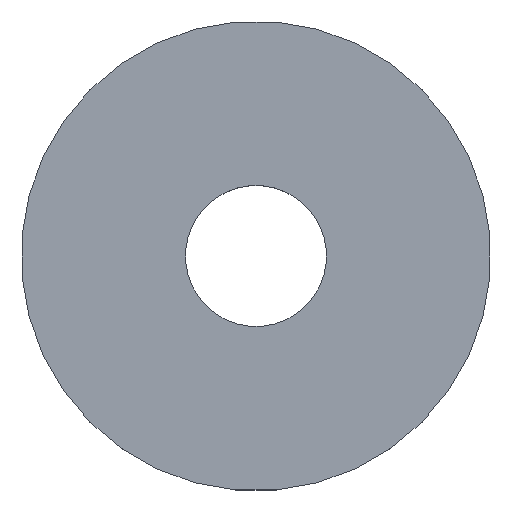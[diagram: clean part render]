
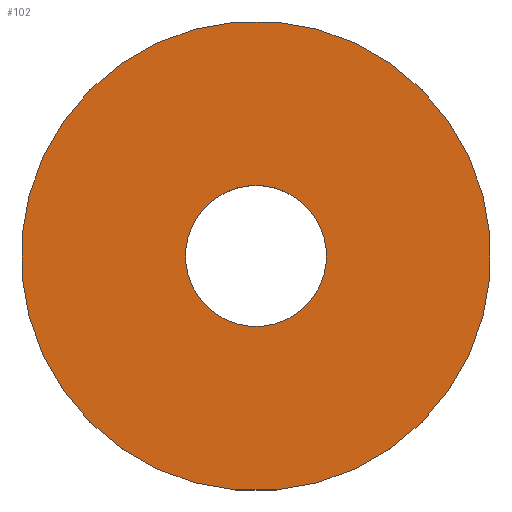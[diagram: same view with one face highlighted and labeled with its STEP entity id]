
A CAD part, top view. The second image highlights one B-rep face of the part: STEP entity #102.
In plain terms, the highlighted planar face has unit normal (0, 0, 1).
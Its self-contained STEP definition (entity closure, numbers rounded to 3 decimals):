
#16=FACE_BOUND('',#31,.T.);
#19=PLANE('',#126);
#23=FACE_OUTER_BOUND('',#30,.T.);
#30=EDGE_LOOP('',(#79));
#31=EDGE_LOOP('',(#80));
#46=CIRCLE('',#124,5.);
#48=CIRCLE('',#127,1.5);
#56=VERTEX_POINT('',#180);
#57=VERTEX_POINT('',#185);
#64=EDGE_CURVE('',#56,#56,#46,.T.);
#66=EDGE_CURVE('',#57,#57,#48,.T.);
#79=ORIENTED_EDGE('',*,*,#64,.F.);
#80=ORIENTED_EDGE('',*,*,#66,.F.);
#102=ADVANCED_FACE('',(#23,#16),#19,.T.);
#124=AXIS2_PLACEMENT_3D('',#182,#145,#146);
#126=AXIS2_PLACEMENT_3D('',#184,#149,#150);
#127=AXIS2_PLACEMENT_3D('',#186,#151,#152);
#145=DIRECTION('center_axis',(0.,0.,
-1.));
#146=DIRECTION('ref_axis',(0.087,0.996,0.));
#149=DIRECTION('center_axis',(0.,0.,
1.));
#150=DIRECTION('ref_axis',(0.996,-0.087,0.));
#151=DIRECTION('center_axis',(0.,0.,
1.));
#152=DIRECTION('ref_axis',(0.996,-0.087,0.));
#180=CARTESIAN_POINT('',(-2.243,-5.382,0.));
#182=CARTESIAN_POINT('Origin',(-1.808,-0.401,0.));
#184=CARTESIAN_POINT('Origin',(-1.808,-0.401,0.));
#185=CARTESIAN_POINT('',(-3.302,-0.271,0.));
#186=CARTESIAN_POINT('Origin',(-1.808,-0.401,0.));
